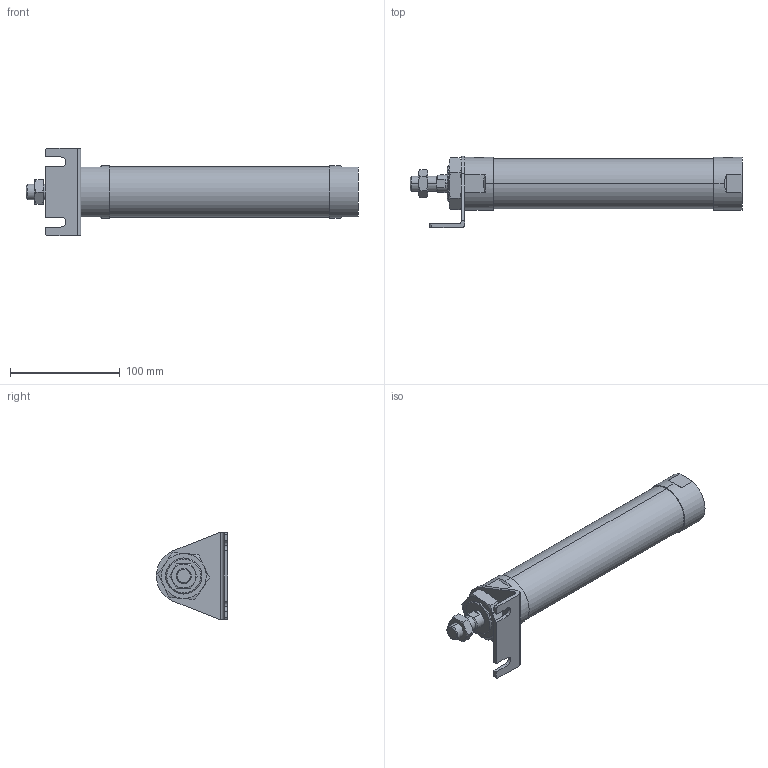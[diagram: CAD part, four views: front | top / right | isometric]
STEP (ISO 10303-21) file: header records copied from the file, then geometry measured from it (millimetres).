
FILE_DESCRIPTION (( 'STEP AP203' ), '1' );
FILE_NAME ('JGND2-40-150-L.STEP', '2016-08-04T03:12:54', ( '' ), ( '' ), 'SwSTEP 2.0', 'SolidWorks 2014', '' );
FILE_SCHEMA (( 'CONFIG_CONTROL_DESIGN' ));
Length unit declared in the file: millimetre
Products named in the file (5): J#2-40-L; JGND2-40-150-L; J#2-40-150(P)
Assembly tree (4 placements, depth 2):
  JGND2-40-150-L
    J#2-40-150(P)
    (unnamed)
    (unnamed)
    J#2-40-L
Bounding box: 303 x 65 x 80 mm (x, y, z)
Volume: 469135.5 mm3; surface area: 61607 mm2
Topology: 4 solids, 4 shells, 116 faces, 273 edges, 167 vertices
Faces by surface type: plane 47, cylinder 32, torus 24, cone 13
Entity records: 4269 total; most frequent: CARTESIAN_POINT 1150, DIRECTION 548, ORIENTED_EDGE 538, EDGE_CURVE 269, AXIS2_PLACEMENT_3D 219, VERTEX_POINT 167, EDGE_LOOP 128, FACE_OUTER_BOUND 116
